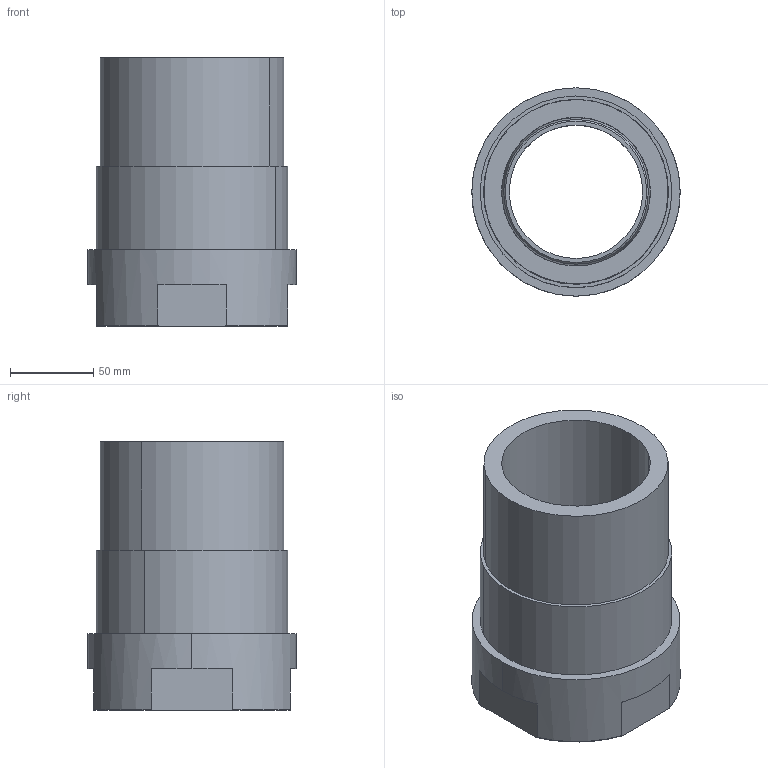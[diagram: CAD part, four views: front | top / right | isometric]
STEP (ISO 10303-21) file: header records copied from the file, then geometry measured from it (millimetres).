
FILE_DESCRIPTION (( 'STEP AP214' ), '1' );
FILE_NAME ('KP_C17-110-90F.step', '2012-09-03T10:40:08', ( 'robinj' ), ( 'Microsoft' ), 'SwSTEP 2.0', 'SolidWorks 2012', '' );
FILE_SCHEMA (( 'AUTOMOTIVE_DESIGN' ));
Length unit declared in the file: millimetre
Products named in the file (1): KP_C17-110-90F
Bounding box: 125 x 125 x 161 mm (x, y, z)
Volume: 759863.5 mm3; surface area: 186107.2 mm2
Topology: 3 solids, 3 shells, 60 faces, 132 edges, 82 vertices
Faces by surface type: cylinder 20, plane 18, cone 12, torus 10
Entity records: 2458 total; most frequent: CARTESIAN_POINT 357, DIRECTION 322, ORIENTED_EDGE 264, AXIS2_PLACEMENT_3D 137, EDGE_CURVE 132, VERTEX_POINT 82, CIRCLE 76, EDGE_LOOP 70
